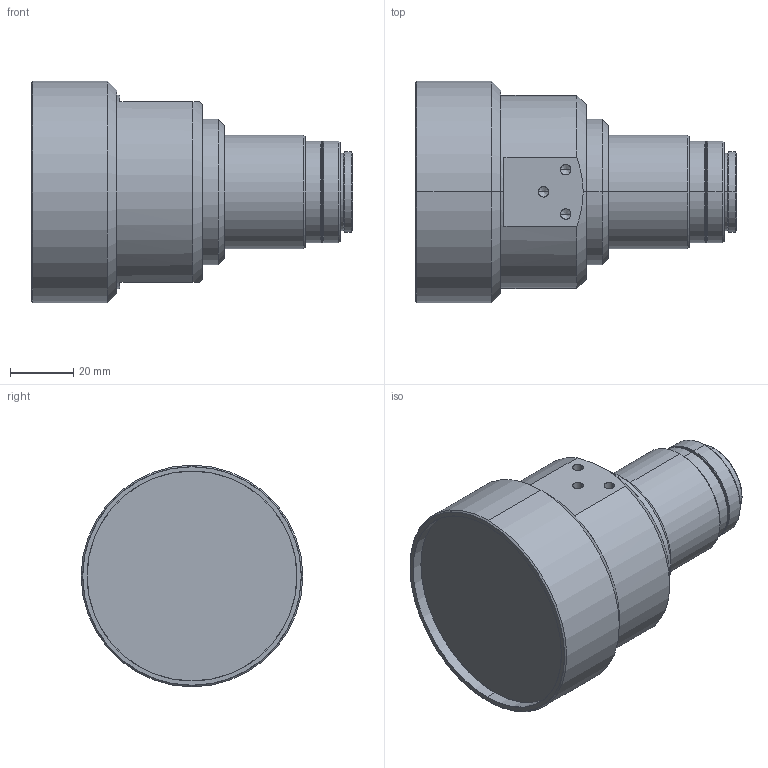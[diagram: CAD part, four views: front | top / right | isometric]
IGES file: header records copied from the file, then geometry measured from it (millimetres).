
Start section: SolidWorks IGES file using analytic representation for surfaces
Global section: file name: C:\Users\miura_vst\Desktop\3D\HP提出用過去の分確認\VS-TCM017-110\VS-TCM017-110.IGS; native system: SolidWorks 2015; preprocessor: SolidWorks 2015; author: miura_vst; date: 150828.145134; units: millimetre
Bounding box: 101.5 x 70 x 70 mm (x, y, z)
Surface area: 24410.2 mm2 (no closed solid volume)
Topology: 0 solids, 0 shells, 80 faces, 1608 edges, 1596 vertices
Faces by surface type: revolution 66, bspline 14
